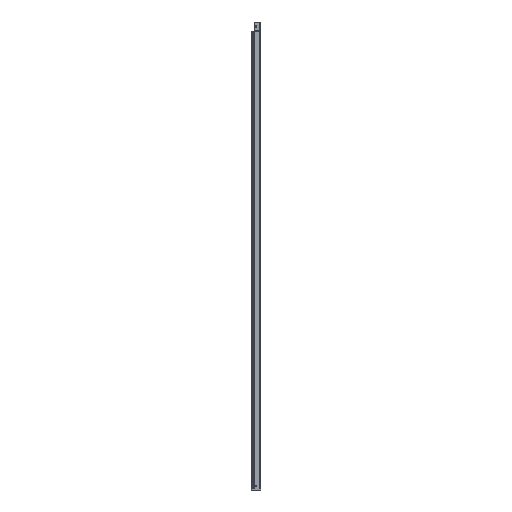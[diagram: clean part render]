
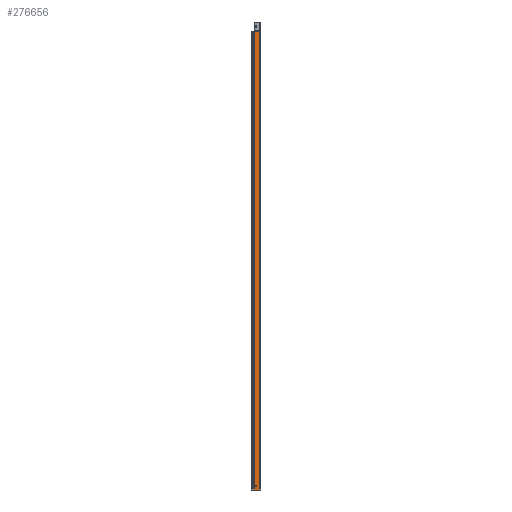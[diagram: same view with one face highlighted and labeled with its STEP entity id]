
A CAD part, left-side view. The second image highlights one B-rep face of the part: STEP entity #276656.
In plain terms, the highlighted planar face has unit normal (-1, 0, 0).
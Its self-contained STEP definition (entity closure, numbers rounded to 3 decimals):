
#498 = ORIENTED_EDGE ( 'NONE', *, *, #57784, .T. ) ;
#12584 = VERTEX_POINT ( 'NONE', #104448 ) ;
#13320 = EDGE_CURVE ( 'NONE', #12584, #92387, #100437, .T. ) ;
#14629 = VERTEX_POINT ( 'NONE', #297956 ) ;
#15095 = CARTESIAN_POINT ( 'NONE',  ( -100., 41.544, 0. ) ) ;
#18298 = CARTESIAN_POINT ( 'NONE',  ( -100., 41.544, -2941.5 ) ) ;
#21424 = DIRECTION ( 'NONE',  ( 0., 1., 0. ) ) ;
#22073 = EDGE_CURVE ( 'NONE', #96371, #307069, #275122, .T. ) ;
#22249 = ORIENTED_EDGE ( 'NONE', *, *, #218457, .T. ) ;
#25279 = CARTESIAN_POINT ( 'NONE',  ( -100., 34.307, -2910.25 ) ) ;
#26264 = CARTESIAN_POINT ( 'NONE',  ( -100., 34.307, -2917.75 ) ) ;
#28461 = EDGE_CURVE ( 'NONE', #99723, #96371, #99786, .T. ) ;
#33750 = EDGE_CURVE ( 'NONE', #12584, #197857, #45404, .T. ) ;
#44908 = VECTOR ( 'NONE', #193477, 1000. ) ;
#45316 = CARTESIAN_POINT ( 'NONE',  ( -100., 27.693, -2910.25 ) ) ;
#45404 = LINE ( 'NONE', #96384, #44908 ) ;
#48625 = PLANE ( 'NONE',  #71742 ) ;
#49905 = ORIENTED_EDGE ( 'NONE', *, *, #100957, .T. ) ;
#55041 = ORIENTED_EDGE ( 'NONE', *, *, #13320, .F. ) ;
#56566 = CARTESIAN_POINT ( 'NONE',  ( -100., 41.544, 0. ) ) ;
#57784 = EDGE_CURVE ( 'NONE', #87048, #99723, #220510, .T. ) ;
#59195 = ORIENTED_EDGE ( 'NONE', *, *, #22073, .T. ) ;
#67458 = CARTESIAN_POINT ( 'NONE',  ( -100., 31., -2914. ) ) ;
#67527 = DIRECTION ( 'NONE',  ( 0., 0., -1. ) ) ;
#71742 = AXIS2_PLACEMENT_3D ( 'NONE', #148981, #138031, #249336 ) ;
#80118 = ORIENTED_EDGE ( 'NONE', *, *, #28461, .T. ) ;
#84015 = CARTESIAN_POINT ( 'NONE',  ( -100., 4.621, -2941.5 ) ) ;
#87048 = VERTEX_POINT ( 'NONE', #172200 ) ;
#92387 = VERTEX_POINT ( 'NONE', #15095 ) ;
#96371 = VERTEX_POINT ( 'NONE', #25279 ) ;
#96384 = CARTESIAN_POINT ( 'NONE',  ( -100., 4.621, -2941.5 ) ) ;
#99723 = VERTEX_POINT ( 'NONE', #278274 ) ;
#99786 = CIRCLE ( 'NONE', #252169, 5. ) ;
#100437 = LINE ( 'NONE', #18298, #313041 ) ;
#100957 = EDGE_CURVE ( 'NONE', #307069, #87048, #317149, .T. ) ;
#104448 = CARTESIAN_POINT ( 'NONE',  ( -100., 41.544, -2941.5 ) ) ;
#111100 = VECTOR ( 'NONE', #225754, 1000. ) ;
#117698 = ORIENTED_EDGE ( 'NONE', *, *, #33750, .T. ) ;
#120542 = CARTESIAN_POINT ( 'NONE',  ( -100., 34.307, -2910.25 ) ) ;
#138031 = DIRECTION ( 'NONE',  ( -1., 0., 0. ) ) ;
#139922 = DIRECTION ( 'NONE',  ( 1., 0., 0. ) ) ;
#148981 = CARTESIAN_POINT ( 'NONE',  ( -100., 4.621, -2941.5 ) ) ;
#149026 = AXIS2_PLACEMENT_3D ( 'NONE', #161391, #212368, #67527 ) ;
#156930 = CARTESIAN_POINT ( 'NONE',  ( -100., 29.237, 0. ) ) ;
#158113 = EDGE_LOOP ( 'NONE', ( #80118, #59195, #49905, #498 ) ) ;
#161391 = CARTESIAN_POINT ( 'NONE',  ( -100., 31., -2914. ) ) ;
#170331 = EDGE_LOOP ( 'NONE', ( #189126, #55041, #117698, #22249 ) ) ;
#172200 = CARTESIAN_POINT ( 'NONE',  ( -100., 27.693, -2917.75 ) ) ;
#189126 = ORIENTED_EDGE ( 'NONE', *, *, #202388, .F. ) ;
#189705 = CARTESIAN_POINT ( 'NONE',  ( -100., 4.621, 0. ) ) ;
#193477 = DIRECTION ( 'NONE',  ( 0., -1., 0. ) ) ;
#195924 = DIRECTION ( 'NONE',  ( 0., 0., 1. ) ) ;
#197857 = VERTEX_POINT ( 'NONE', #292005 ) ;
#202388 = EDGE_CURVE ( 'NONE', #92387, #14629, #316897, .T. ) ;
#212368 = DIRECTION ( 'NONE',  ( 1., 0., 0. ) ) ;
#215547 = DIRECTION ( 'NONE',  ( 0., 0., 1. ) ) ;
#215554 = DIRECTION ( 'NONE',  ( 0., 0., -1. ) ) ;
#218457 = EDGE_CURVE ( 'NONE', #197857, #14629, #263296, .T. ) ;
#220510 = LINE ( 'NONE', #26264, #312858 ) ;
#225754 = DIRECTION ( 'NONE',  ( 0., -1., 0. ) ) ;
#232586 = CARTESIAN_POINT ( 'NONE',  ( -100., 16.929, 0. ) ) ;
#249336 = DIRECTION ( 'NONE',  ( 0., -1., 0. ) ) ;
#252169 = AXIS2_PLACEMENT_3D ( 'NONE', #67458, #139922, #215554 ) ;
#263296 = LINE ( 'NONE', #84015, #279685 ) ;
#273999 = FACE_BOUND ( 'NONE', #158113, .T. ) ;
#275122 = LINE ( 'NONE', #120542, #111100 ) ;
#276656 = ADVANCED_FACE ( 'NONE', ( #273999, #298668 ), #48625, .T. ) ;
#278274 = CARTESIAN_POINT ( 'NONE',  ( -100., 34.307, -2917.75 ) ) ;
#279685 = VECTOR ( 'NONE', #215547, 1000. ) ;
#292005 = CARTESIAN_POINT ( 'NONE',  ( -100., 4.621, -2941.5 ) ) ;
#297956 = CARTESIAN_POINT ( 'NONE',  ( -100., 4.621, 0. ) ) ;
#298668 = FACE_OUTER_BOUND ( 'NONE', #170331, .T. ) ;
#307069 = VERTEX_POINT ( 'NONE', #45316 ) ;
#312858 = VECTOR ( 'NONE', #21424, 1000. ) ;
#313041 = VECTOR ( 'NONE', #195924, 1000. ) ;
#316897 = B_SPLINE_CURVE_WITH_KNOTS ( 'NONE', 3,
 ( #56566, #156930, #232586, #189705 ),
 .UNSPECIFIED., .F., .F.,
 ( 4, 4 ),
 ( 0., 1. ),
 .UNSPECIFIED. ) ;
#317149 = CIRCLE ( 'NONE', #149026, 5. ) ;
